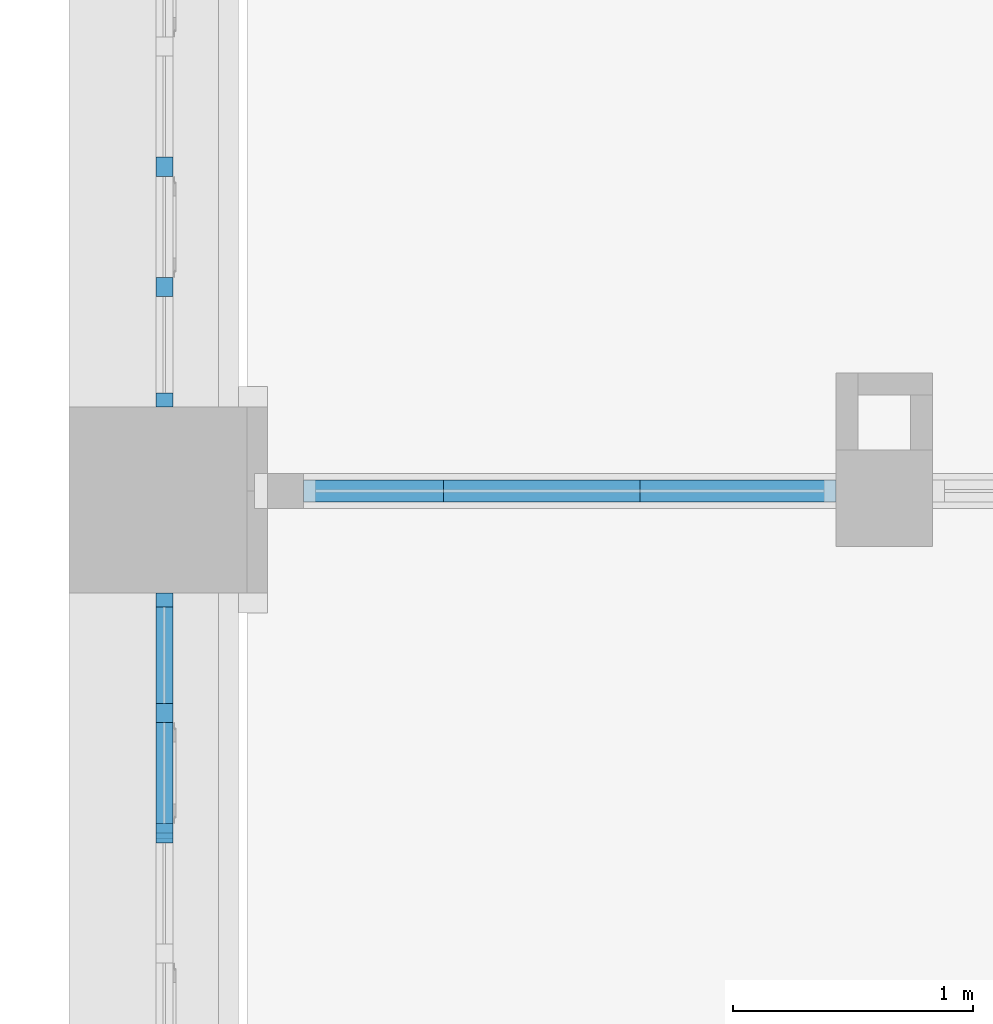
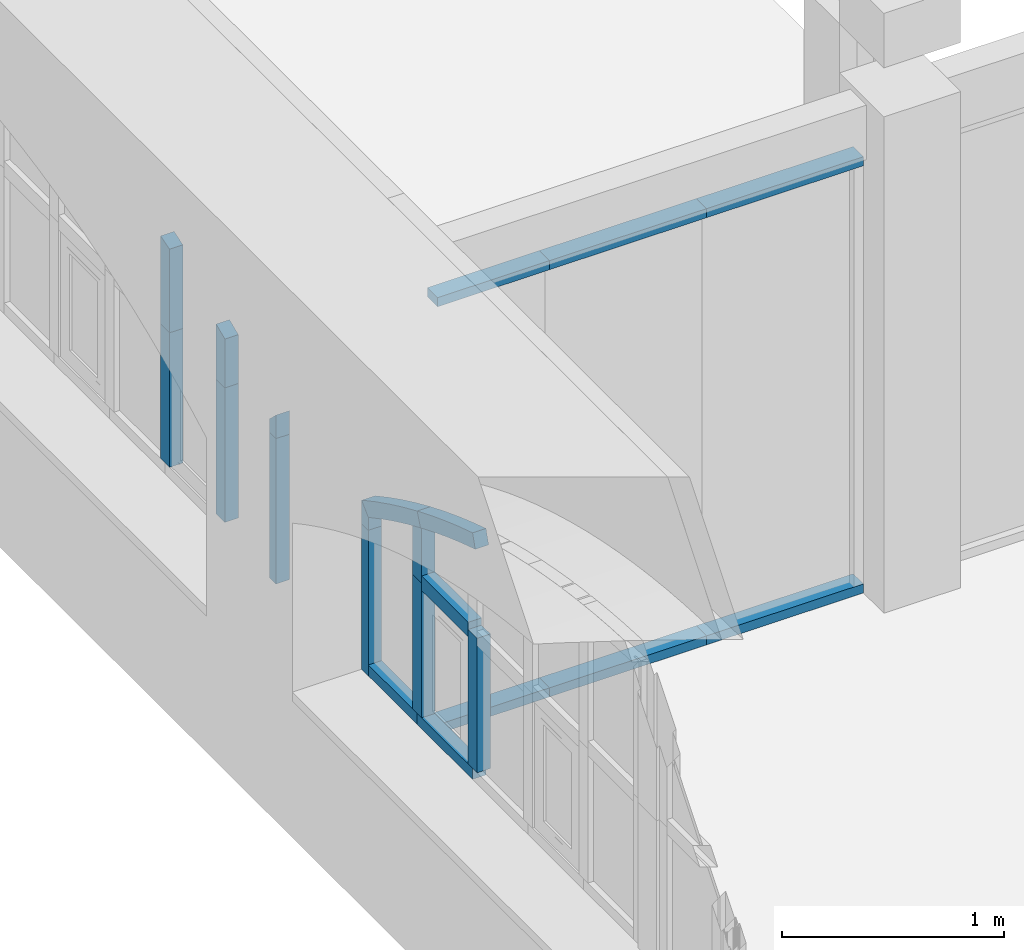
# One storey, part 6 of 32: 22 members, 3 elements without a shape of their own.
"""IFC2X3 building model written with IfcOpenShell, lengths in millimetres."""

from ifc_helpers import new_model, entity, si_unit, converted_unit, derived_unit, direction, frame, frame_2d, origin, place, context, subcontext, project, spatial, polyline, circle_curve, parameter, trimmed, segment, composite_curve, rectangle, outline, extrude, source, transform, mapped, material, type_object, type_shapes, element, aggregate, save


model = new_model("IFC2X3")

# Units and contexts
model_context = context("Model", 3, precision=0.01, world=origin(), true_north=direction((6.123031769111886e-17, 1.0)))
body_context = subcontext(model_context, "Body", "Model", "MODEL_VIEW")
ifc_project = project(units=[si_unit("LENGTHUNIT", "METRE", prefix="MILLI"), si_unit("AREAUNIT", "SQUARE_METRE"), si_unit("VOLUMEUNIT", "CUBIC_METRE"), converted_unit("PLANEANGLEUNIT", "DEGREE", entity("IfcPlaneAngleMeasure", 0.017453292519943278), si_unit("PLANEANGLEUNIT", "RADIAN"), dimensions=[0, 0, 0, 0, 0, 0, 0]), si_unit("MASSUNIT", "GRAM", prefix="KILO"), derived_unit("MASSDENSITYUNIT", [(si_unit("MASSUNIT", "GRAM", prefix="KILO"), 1), (si_unit("LENGTHUNIT", "METRE"), -3)]), derived_unit("IONCONCENTRATIONUNIT", [(si_unit("MASSUNIT", "GRAM", prefix="KILO"), 1), (si_unit("LENGTHUNIT", "METRE"), -3)]), derived_unit("MOMENTOFINERTIAUNIT", [(si_unit("LENGTHUNIT", "METRE"), 4)]), si_unit("TIMEUNIT", "SECOND"), si_unit("FREQUENCYUNIT", "HERTZ"), si_unit("THERMODYNAMICTEMPERATUREUNIT", "DEGREE_CELSIUS"), derived_unit("THERMALTRANSMITTANCEUNIT", [(si_unit("MASSUNIT", "GRAM", prefix="KILO"), 1), (si_unit("THERMODYNAMICTEMPERATUREUNIT", "KELVIN"), -1), (si_unit("TIMEUNIT", "SECOND"), -3)]), derived_unit("THERMALCONDUCTANCEUNIT", [(si_unit("MASSUNIT", "GRAM", prefix="KILO"), 1), (si_unit("THERMODYNAMICTEMPERATUREUNIT", "KELVIN"), -1), (si_unit("TIMEUNIT", "SECOND"), -3), (si_unit("LENGTHUNIT", "METRE"), 1)]), derived_unit("VOLUMETRICFLOWRATEUNIT", [(si_unit("LENGTHUNIT", "METRE", prefix="DECI"), 3), (si_unit("TIMEUNIT", "SECOND"), -1)]), derived_unit("MASSFLOWRATEUNIT", [(si_unit("MASSUNIT", "GRAM", prefix="KILO"), 1), (si_unit("TIMEUNIT", "SECOND"), -1)]), derived_unit("ROTATIONALFREQUENCYUNIT", [(si_unit("TIMEUNIT", "SECOND"), -1)]), si_unit("ELECTRICCURRENTUNIT", "AMPERE"), si_unit("ELECTRICVOLTAGEUNIT", "VOLT"), si_unit("POWERUNIT", "WATT"), si_unit("FORCEUNIT", "NEWTON", prefix="KILO"), si_unit("ILLUMINANCEUNIT", "LUX"), si_unit("LUMINOUSFLUXUNIT", "LUMEN"), si_unit("LUMINOUSINTENSITYUNIT", "CANDELA"), si_unit("ENERGYUNIT", "JOULE"), derived_unit("USERDEFINED", [(si_unit("MASSUNIT", "GRAM", prefix="KILO"), -1), (si_unit("LENGTHUNIT", "METRE"), -2), (si_unit("TIMEUNIT", "SECOND"), 3), (si_unit("LUMINOUSFLUXUNIT", "LUMEN"), 1)]), derived_unit("USERDEFINED", [(si_unit("MASSUNIT", "GRAM", prefix="KILO"), 1), (si_unit("TIMEUNIT", "SECOND"), -3), (si_unit("LENGTHUNIT", "METRE"), 3), (si_unit("ELECTRICCURRENTUNIT", "AMPERE"), -2)]), derived_unit("SOUNDPOWERUNIT", [(si_unit("MASSUNIT", "GRAM", prefix="KILO"), 1), (si_unit("TIMEUNIT", "SECOND"), -3), (si_unit("LENGTHUNIT", "METRE"), 2)]), derived_unit("SOUNDPRESSUREUNIT", [(si_unit("MASSUNIT", "GRAM", prefix="KILO"), 1), (si_unit("LENGTHUNIT", "METRE"), -1), (si_unit("TIMEUNIT", "SECOND"), -2)]), derived_unit("LINEARVELOCITYUNIT", [(si_unit("LENGTHUNIT", "METRE"), 1), (si_unit("TIMEUNIT", "SECOND"), -1)]), si_unit("PRESSUREUNIT", "PASCAL"), derived_unit("USERDEFINED", [(si_unit("MASSUNIT", "GRAM", prefix="KILO"), 1), (si_unit("LENGTHUNIT", "METRE"), -2), (si_unit("TIMEUNIT", "SECOND"), -2)]), derived_unit("LINEARFORCEUNIT", [(si_unit("MASSUNIT", "GRAM", prefix="KILO"), 1), (si_unit("TIMEUNIT", "SECOND"), -2)]), derived_unit("PLANARFORCEUNIT", [(si_unit("MASSUNIT", "GRAM", prefix="KILO"), 1), (si_unit("LENGTHUNIT", "METRE"), -1), (si_unit("TIMEUNIT", "SECOND"), -2)]), derived_unit("SPECIFICHEATCAPACITYUNIT", [(si_unit("THERMODYNAMICTEMPERATUREUNIT", "KELVIN"), -1), (si_unit("LENGTHUNIT", "METRE"), 2), (si_unit("TIMEUNIT", "SECOND"), -2)]), derived_unit("HEATFLUXDENSITYUNIT", [(si_unit("MASSUNIT", "GRAM", prefix="KILO"), 1), (si_unit("TIMEUNIT", "SECOND"), -3)]), derived_unit("HEATINGVALUEUNIT", [(si_unit("LENGTHUNIT", "METRE"), 2), (si_unit("TIMEUNIT", "SECOND"), -2)]), derived_unit("VAPORPERMEABILITYUNIT", [(si_unit("LENGTHUNIT", "METRE"), -1), (si_unit("TIMEUNIT", "SECOND"), 1)]), derived_unit("DYNAMICVISCOSITYUNIT", [(si_unit("MASSUNIT", "GRAM", prefix="KILO"), 1), (si_unit("TIMEUNIT", "SECOND"), -1), (si_unit("LENGTHUNIT", "METRE"), -1)]), derived_unit("THERMALEXPANSIONCOEFFICIENTUNIT", [(si_unit("THERMODYNAMICTEMPERATUREUNIT", "KELVIN"), -1)]), derived_unit("MODULUSOFELASTICITYUNIT", [(si_unit("MASSUNIT", "GRAM", prefix="KILO"), 1), (si_unit("LENGTHUNIT", "METRE"), -1), (si_unit("TIMEUNIT", "SECOND"), -2)]), derived_unit("ISOTHERMALMOISTURECAPACITYUNIT", [(si_unit("MASSUNIT", "GRAM", prefix="KILO"), -1), (si_unit("LENGTHUNIT", "METRE"), 3)]), derived_unit("MOISTUREDIFFUSIVITYUNIT", [(si_unit("TIMEUNIT", "SECOND"), -1), (si_unit("LENGTHUNIT", "METRE"), 2)]), derived_unit("MASSPERLENGTHUNIT", [(si_unit("MASSUNIT", "GRAM", prefix="KILO"), 1), (si_unit("LENGTHUNIT", "METRE"), -1)]), derived_unit("THERMALRESISTANCEUNIT", [(si_unit("MASSUNIT", "GRAM", prefix="KILO"), -1), (si_unit("TIMEUNIT", "SECOND"), 3), (si_unit("THERMODYNAMICTEMPERATUREUNIT", "KELVIN"), 1)]), derived_unit("ACCELERATIONUNIT", [(si_unit("LENGTHUNIT", "METRE"), 1), (si_unit("TIMEUNIT", "SECOND"), -2)]), derived_unit("ANGULARVELOCITYUNIT", [(si_unit("TIMEUNIT", "SECOND"), -1), (si_unit("PLANEANGLEUNIT", "RADIAN"), 1)]), derived_unit("LINEARSTIFFNESSUNIT", [(si_unit("MASSUNIT", "GRAM", prefix="KILO"), 1), (si_unit("TIMEUNIT", "SECOND"), -2)]), derived_unit("WARPINGCONSTANTUNIT", [(si_unit("LENGTHUNIT", "METRE"), 6)]), derived_unit("LINEARMOMENTUNIT", [(si_unit("MASSUNIT", "GRAM", prefix="KILO"), 1), (si_unit("LENGTHUNIT", "METRE"), 1), (si_unit("TIMEUNIT", "SECOND"), -2)]), derived_unit("TORQUEUNIT", [(si_unit("MASSUNIT", "GRAM", prefix="KILO"), 1), (si_unit("LENGTHUNIT", "METRE"), 2), (si_unit("TIMEUNIT", "SECOND"), -2)])], contexts=[model_context])

# Site, building, storey
site_placement = place(None, origin())
site = spatial("IfcSite", under=ifc_project, at=site_placement, Name="Default", CompositionType="ELEMENT")
building_placement = place(site_placement, origin())
building = spatial("IfcBuilding", under=site, at=building_placement, Name="Eesti Rahvusraamatukogu hoone renoveerimise projekteerimistööd", CompositionType="ELEMENT")
storey_placement = place(building_placement, frame((0.0, 0.0, 4950.000000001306)))
storey = spatial("IfcBuildingStorey", under=building, at=storey_placement, Name="2. korrus", CompositionType="ELEMENT", Elevation=4950.000000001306)

# Curtain wall, members
curtain_wall_type_1 = type_object("IfcCurtainWallType", Name="Curtain Wall:VLS Klaasvahesein profiilita 38db", PredefinedType="NOTDEFINED")
curtain_wall_1_placement = place(storey_placement, frame((0.0, 0.0, -4950.000000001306)))
curtain_wall_1 = element("IfcCurtainWall", 1, at=curtain_wall_1_placement, inside=storey, type_object=curtain_wall_type_1, Name="Curtain Wall:VLS Klaasvahesein profiilita 38db", ObjectType="Curtain Wall:VLS Klaasvahesein profiilita 38db")
ifc_material_1 = material(Name="Aluminum")
member_type_1 = type_object("IfcMemberType", Name="Rectangular Mullion:50mm x 92mm", PredefinedType="MULLION", material=ifc_material_1)
shared_shape_1 = source(origin(), body_context, "Body", "SweptSolid", [
    extrude(rectangle(XDim=50.0, YDim=92.0, at=frame_2d((0.0, 3.552713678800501e-15), x_axis=(1.0, 0.0))), frame((-25.0, 0.0, -816.6666667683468), z_axis=(0.0, 0.0, 1.0), x_axis=(-1.0, 0.0, 0.0)), (0.0, 0.0, 1.0), 816.6666667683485),
])
type_shapes(member_type_1, [shared_shape_1])
member_1_placement = place(curtain_wall_1_placement, frame((-33590.0, 12420.0, 7350.0), z_axis=(1.0, 0.0, 0.0), x_axis=(0.0, 0.0, 1.0)))
member_1 = element("IfcMember", 2, at=member_1_placement, type_object=member_type_1, material=ifc_material_1, Name="Rectangular Mullion:50mm x 92mm", ObjectType="Rectangular Mullion:50mm x 92mm", context=body_context, shape_type="MappedRepresentation", body=[
    mapped(shared_shape_1, transform((0.0, 0.0, 0.0), scale=1.0)),
])
member_type_2 = type_object("IfcMemberType", Name="Rectangular Mullion:50mm x 92mm", PredefinedType="MULLION", material=ifc_material_1)
shared_shape_2 = source(origin(), body_context, "Body", "SweptSolid", [
    extrude(rectangle(XDim=50.0, YDim=92.0, at=frame_2d((0.0, 3.552713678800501e-15), x_axis=(1.0, 0.0))), frame((-25.0, 0.0, -582.1666667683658), z_axis=(0.0, 0.0, 1.0), x_axis=(-1.0, 0.0, 0.0)), (0.0, 0.0, 1.0), 582.1666667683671),
])
type_shapes(member_type_2, [shared_shape_2])
member_2_placement = place(curtain_wall_1_placement, frame((-35223.33333323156, 12420.0, 7350.0), z_axis=(1.0, 0.0, 0.0), x_axis=(0.0, 0.0, 1.0)))
member_2 = element("IfcMember", 3, at=member_2_placement, type_object=member_type_2, material=ifc_material_1, Name="Rectangular Mullion:50mm x 92mm", ObjectType="Rectangular Mullion:50mm x 92mm", context=body_context, shape_type="MappedRepresentation", body=[
    mapped(shared_shape_2, transform((0.0, 0.0, 0.0), scale=1.0)),
])
member_type_3 = type_object("IfcMemberType", Name="Rectangular Mullion:50mm x 92mm", PredefinedType="MULLION", material=ifc_material_1)
shared_shape_3 = source(origin(), body_context, "Body", "SweptSolid", [
    extrude(rectangle(XDim=50.0, YDim=92.0, at=frame_2d((0.0, 3.552713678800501e-15), x_axis=(1.0, 0.0))), frame((-25.0, 0.0, -816.666666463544), z_axis=(0.0, 0.0, 1.0), x_axis=(-1.0, 0.0, 0.0)), (0.0, 0.0, 1.0), 816.666666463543),
])
type_shapes(member_type_3, [shared_shape_3])
member_3_placement = place(curtain_wall_1_placement, frame((-34406.666666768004, 12420.0, 7350.0), z_axis=(1.0, 0.0, 0.0), x_axis=(0.0, 0.0, 1.0)))
member_3 = element("IfcMember", 4, at=member_3_placement, type_object=member_type_3, material=ifc_material_1, Name="Rectangular Mullion:50mm x 92mm", ObjectType="Rectangular Mullion:50mm x 92mm", context=body_context, shape_type="MappedRepresentation", body=[
    mapped(shared_shape_3, transform((0.0, 0.0, 0.0), scale=1.0)),
])
member_type_4 = type_object("IfcMemberType", Name="Rectangular Mullion:50mm x 92mm", PredefinedType="MULLION", material=ifc_material_1)
shared_shape_4 = source(origin(), body_context, "Body", "SweptSolid", [
    extrude(rectangle(XDim=50.0, YDim=92.0, at=frame_2d((0.0, 3.552713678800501e-15), x_axis=(1.0, 0.0))), frame((-25.0, 0.0, -582.1666667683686), z_axis=(0.0, 0.0, 1.0), x_axis=(-1.0, 0.0, 0.0)), (0.0, 0.0, 1.0), 582.1666667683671),
])
type_shapes(member_type_4, [shared_shape_4])
member_4_placement = place(curtain_wall_1_placement, frame((-35805.49999999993, 12420.0, 4950.0), z_axis=(-1.0, 0.0, 0.0), x_axis=(0.0, 0.0, -1.0)))
member_4 = element("IfcMember", 5, at=member_4_placement, type_object=member_type_4, material=ifc_material_1, Name="Rectangular Mullion:50mm x 92mm", ObjectType="Rectangular Mullion:50mm x 92mm", context=body_context, shape_type="MappedRepresentation", body=[
    mapped(shared_shape_4, transform((0.0, 0.0, 0.0), scale=1.0)),
])
member_type_5 = type_object("IfcMemberType", Name="Rectangular Mullion:50mm x 92mm", PredefinedType="MULLION", material=ifc_material_1)
shared_shape_5 = source(origin(), body_context, "Body", "SweptSolid", [
    extrude(rectangle(XDim=50.0, YDim=92.0, at=frame_2d((0.0, 3.552713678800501e-15), x_axis=(1.0, 0.0))), frame((-25.0, 0.0, -816.6666664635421), z_axis=(0.0, 0.0, 1.0), x_axis=(-1.0, 0.0, 0.0)), (0.0, 0.0, 1.0), 816.666666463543),
])
type_shapes(member_type_5, [shared_shape_5])
member_5_placement = place(curtain_wall_1_placement, frame((-35223.33333323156, 12420.0, 4950.0), z_axis=(-1.0, 0.0, 0.0), x_axis=(0.0, 0.0, -1.0)))
member_5 = element("IfcMember", 6, at=member_5_placement, type_object=member_type_5, material=ifc_material_1, Name="Rectangular Mullion:50mm x 92mm", ObjectType="Rectangular Mullion:50mm x 92mm", context=body_context, shape_type="MappedRepresentation", body=[
    mapped(shared_shape_5, transform((0.0, 0.0, 0.0), scale=1.0)),
])
member_type_6 = type_object("IfcMemberType", Name="Rectangular Mullion:50mm x 92mm", PredefinedType="MULLION", material=ifc_material_1)
shared_shape_6 = source(origin(), body_context, "Body", "SweptSolid", [
    extrude(rectangle(XDim=50.0, YDim=92.0, at=frame_2d((0.0, 3.552713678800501e-15), x_axis=(1.0, 0.0))), frame((-25.0, 0.0, -816.6666667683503), z_axis=(0.0, 0.0, 1.0), x_axis=(-1.0, 0.0, 0.0)), (0.0, 0.0, 1.0), 816.6666667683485),
])
type_shapes(member_type_6, [shared_shape_6])
member_6_placement = place(curtain_wall_1_placement, frame((-34406.666666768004, 12420.0, 4950.0), z_axis=(-1.0, 0.0, 0.0), x_axis=(0.0, 0.0, -1.0)))
member_6 = element("IfcMember", 7, at=member_6_placement, type_object=member_type_6, material=ifc_material_1, Name="Rectangular Mullion:50mm x 92mm", ObjectType="Rectangular Mullion:50mm x 92mm", context=body_context, shape_type="MappedRepresentation", body=[
    mapped(shared_shape_6, transform((0.0, 0.0, 0.0), scale=1.0)),
])
aggregate(curtain_wall_1, [member_1, member_2, member_3, member_4, member_5, member_6])

curtain_wall_type_2 = type_object("IfcCurtainWallType", Name="Curtain Wall:Ak-04", PredefinedType="NOTDEFINED")
curtain_wall_2_placement = place(storey_placement, frame((0.0, 0.0, -4950.000000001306)))
curtain_wall_2 = element("IfcCurtainWall", 8, at=curtain_wall_2_placement, inside=storey, type_object=curtain_wall_type_2, Name="Curtain Wall:Ak-04", ObjectType="Curtain Wall:Ak-04")
ifc_material_2 = material(Name="LUMION_dark steel window frames")
member_type_7 = type_object("IfcMemberType", Name="Rectangular Mullion:NEW 80x70mm", PredefinedType="MULLION", material=ifc_material_2)
shared_shape_7 = source(origin(), body_context, "Body", "SweptSolid", [
    extrude(rectangle(XDim=80.0, YDim=70.0, at=frame_2d((0.0, -3.552713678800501e-15), x_axis=(1.0, 0.0))), frame((0.0, 0.0, -420.0), z_axis=(0.0, 0.0, 1.0), x_axis=(-1.0, 0.0, 0.0)), (0.0, 0.0, 1.0), 419.999999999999),
])
type_shapes(member_type_7, [shared_shape_7])
member_7_placement = place(curtain_wall_2_placement, frame((-36383.999999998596, 11036.599999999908, 6550.000000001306), z_axis=(0.0, -1.0, 0.0), x_axis=(0.0, 0.0, 1.0)))
member_7 = element("IfcMember", 9, at=member_7_placement, type_object=member_type_7, material=ifc_material_2, Name="Rectangular Mullion:NEW 80x70mm", ObjectType="Rectangular Mullion:NEW 80x70mm", context=body_context, shape_type="MappedRepresentation", body=[
    mapped(shared_shape_7, transform((0.0, 0.0, 0.0), scale=1.0)),
])
member_type_8 = type_object("IfcMemberType", Name="Rectangular Mullion:NEW 60x70mm", PredefinedType="MULLION", material=ifc_material_2)
shared_shape_8 = source(origin(), body_context, "Body", "SweptSolid", [
    extrude(rectangle(XDim=60.0, YDim=70.0, at=frame_2d((0.0, 3.552713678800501e-15), x_axis=(1.0, 0.0))), frame((-30.0, 0.0, -500.0), z_axis=(0.0, 0.0, 1.0), x_axis=(-1.0, 0.0, 0.0)), (0.0, 0.0, 1.0), 499.999999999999),
])
type_shapes(member_type_8, [shared_shape_8])
member_8_placement = place(curtain_wall_2_placement, frame((-36383.999999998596, 11496.599999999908, 5750.000000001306), z_axis=(0.0, 1.0, 0.0), x_axis=(0.0, 0.0, -1.0)))
member_8 = element("IfcMember", 10, at=member_8_placement, type_object=member_type_8, material=ifc_material_2, Name="Rectangular Mullion:NEW 60x70mm", ObjectType="Rectangular Mullion:NEW 60x70mm", context=body_context, shape_type="MappedRepresentation", body=[
    mapped(shared_shape_8, transform((0.0, 0.0, 0.0), scale=1.0)),
])
member_type_9 = type_object("IfcMemberType", Name="Rectangular Mullion:NEW 60x70mm", PredefinedType="MULLION", material=ifc_material_2)
shared_shape_9 = source(origin(), body_context, "Body", "SweptSolid", [
    extrude(rectangle(XDim=60.0, YDim=70.0, at=frame_2d((0.0, 3.552713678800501e-15), x_axis=(1.0, 0.0))), frame((-30.0, 0.0, -440.0), z_axis=(0.0, 0.0, 1.0), x_axis=(-1.0, 0.0, 0.0)), (0.0, 0.0, 1.0), 439.9999999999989),
])
type_shapes(member_type_9, [shared_shape_9])
member_9_placement = place(curtain_wall_2_placement, frame((-36383.999999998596, 11936.599999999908, 5750.000000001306), z_axis=(0.0, 1.0, 0.0), x_axis=(0.0, 0.0, -1.0)))
member_9 = element("IfcMember", 11, at=member_9_placement, type_object=member_type_9, material=ifc_material_2, Name="Rectangular Mullion:NEW 60x70mm", ObjectType="Rectangular Mullion:NEW 60x70mm", context=body_context, shape_type="MappedRepresentation", body=[
    mapped(shared_shape_9, transform((0.0, 0.0, 0.0), scale=1.0)),
])

curtain_wall_3_placement = place(storey_placement, frame((0.0, 0.0, -4950.000000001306)))
curtain_wall_3 = element("IfcCurtainWall", 12, at=curtain_wall_3_placement, inside=storey, type_object=curtain_wall_type_2, Name="Curtain Wall:Ak-04", ObjectType="Curtain Wall:Ak-04")
member_type_10 = type_object("IfcMemberType", Name="Rectangular Mullion:NEW 80x70mm", PredefinedType="MULLION", material=ifc_material_2)
shared_shape_10 = source(origin(), body_context, "Body", "SweptSolid", [
    extrude(outline(composite_curve([segment(polyline([(-174.30772999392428, -46.24561306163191), (94.42385048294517, -46.24561306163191)]), True, "CONTINUOUS"), segment(trimmed(circle_curve(frame_2d((-4754.083849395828, 2093.7543869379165), x_axis=(0.8754595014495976, -0.48329148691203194)), 5299.776119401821), [parameter(5.085231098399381)], [parameter(5.924265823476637)], True, "PARAMETER"), True, "CONTINUOUS"), segment(trimmed(circle_curve(frame_2d((-4754.0838493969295, 2093.7543869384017), x_axis=(0.9206661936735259, -0.3903508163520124)), 5299.776119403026), [parameter(0.0)], [parameter(0.10296582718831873)], True, "PARAMETER"), True, "CONTINUOUS"), segment(polyline([(128.9507517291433, 33.75438693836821), (-174.30772999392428, 33.75438693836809)]), True, "CONTINUOUS"), segment(polyline([(-174.30772999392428, 33.75438693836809), (-174.30772999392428, -46.24561306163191)]), True, "CONTINUOUS")], self_intersect=False)), frame((-6.245613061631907, -35.0, -174.30772999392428), z_axis=(0.0, 1.0, 0.0), x_axis=(0.0, 0.0, -1.0)), (0.0, 0.0, 1.0), 70.00000000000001),
])
type_shapes(member_type_10, [shared_shape_10])
member_10_placement = place(curtain_wall_3_placement, frame((-36383.9999999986, 13268.695591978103, 6550.000000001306), z_axis=(0.0, 0.0, -1.0), x_axis=(0.0, -1.0, 0.0)))
member_10 = element("IfcMember", 13, at=member_10_placement, type_object=member_type_10, material=ifc_material_2, Name="Rectangular Mullion:NEW 80x70mm", ObjectType="Rectangular Mullion:NEW 80x70mm", context=body_context, shape_type="MappedRepresentation", body=[
    mapped(shared_shape_10, transform((0.0, 0.0, 0.0), scale=1.0)),
])
member_type_11 = type_object("IfcMemberType", Name="Rectangular Mullion:NEW 80x70mm", PredefinedType="MULLION", material=ifc_material_2)
shared_shape_11 = source(origin(), body_context, "Body", "SweptSolid", [
    extrude(rectangle(XDim=80.0, YDim=70.0, at=frame_2d((0.0, -3.552713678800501e-15), x_axis=(1.0, 0.0))), frame((0.0, 0.0, -740.0), z_axis=(0.0, 0.0, 1.0), x_axis=(-1.0, 0.0, 0.0)), (0.0, 0.0, 1.0), 740.0),
])
type_shapes(member_type_11, [shared_shape_11])
member_11_placement = place(curtain_wall_3_placement, frame((-36383.9999999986, 13268.695591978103, 5810.000000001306), z_axis=(0.0, 0.0, -1.0), x_axis=(0.0, -1.0, 0.0)))
member_11 = element("IfcMember", 14, at=member_11_placement, type_object=member_type_11, material=ifc_material_2, Name="Rectangular Mullion:NEW 80x70mm", ObjectType="Rectangular Mullion:NEW 80x70mm", context=body_context, shape_type="MappedRepresentation", body=[
    mapped(shared_shape_11, transform((0.0, 0.0, 0.0), scale=1.0)),
])
member_12_placement = place(curtain_wall_3_placement, frame((-36383.9999999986, 13768.695591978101, 5810.000000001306), z_axis=(0.0, 0.0, -1.0), x_axis=(0.0, -1.0, 0.0)))
member_12 = element("IfcMember", 15, at=member_12_placement, type_object=member_type_11, material=ifc_material_2, Name="Rectangular Mullion:NEW 80x70mm", ObjectType="Rectangular Mullion:NEW 80x70mm", context=body_context, shape_type="MappedRepresentation", body=[
    mapped(shared_shape_11, transform((0.0, 0.0, 0.0), scale=1.0)),
])

# Member
member_13_placement = place(curtain_wall_2_placement, frame((-36383.999999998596, 10996.599999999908, 5810.000000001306), z_axis=(0.0, 0.0, -1.0), x_axis=(0.0, -1.0, 0.0)))
member_13 = element("IfcMember", 16, at=member_13_placement, type_object=member_type_11, material=ifc_material_2, Name="Rectangular Mullion:NEW 80x70mm", ObjectType="Rectangular Mullion:NEW 80x70mm", context=body_context, shape_type="MappedRepresentation", body=[
    mapped(shared_shape_11, transform((0.0, 0.0, 0.0), scale=1.0)),
])

member_14_placement = place(curtain_wall_2_placement, frame((-36383.999999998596, 11496.599999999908, 5810.000000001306), z_axis=(0.0, 0.0, -1.0), x_axis=(0.0, -1.0, 0.0)))
member_14 = element("IfcMember", 17, at=member_14_placement, type_object=member_type_11, material=ifc_material_2, Name="Rectangular Mullion:NEW 80x70mm", ObjectType="Rectangular Mullion:NEW 80x70mm", context=body_context, shape_type="MappedRepresentation", body=[
    mapped(shared_shape_11, transform((0.0, 0.0, 0.0), scale=1.0)),
])

member_type_12 = type_object("IfcMemberType", Name="Rectangular Mullion:NEW 80x70mm", PredefinedType="MULLION", material=ifc_material_2)
shared_shape_12 = source(origin(), body_context, "Body", "SweptSolid", [
    extrude(outline(composite_curve([segment(polyline([(-285.0515721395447, -44.75856233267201), (174.81782335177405, -44.75856233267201)]), True, "CONTINUOUS"), segment(trimmed(circle_curve(frame_2d((-4864.82769154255, 1595.2414376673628), x_axis=(0.9206661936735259, -0.3903508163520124)), 5299.776119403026), [parameter(4.950420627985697)], [parameter(5.674213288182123)], True, "PARAMETER"), True, "CONTINUOUS"), segment(trimmed(circle_curve(frame_2d((-4864.827691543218, 1595.2414376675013), x_axis=(0.9547498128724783, -0.297410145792)), 5299.776119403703), [parameter(0.0)], [parameter(0.18342876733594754)], True, "PARAMETER"), True, "CONTINUOUS"), segment(polyline([(200.15275420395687, 35.24143766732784), (-285.0515721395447, 35.24143766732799)]), True, "CONTINUOUS"), segment(polyline([(-285.0515721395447, 35.24143766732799), (-285.0515721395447, -44.75856233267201)]), True, "CONTINUOUS")], self_intersect=False)), frame((-4.758562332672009, -35.0, -285.0515721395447), z_axis=(0.0, 1.0, 0.0), x_axis=(0.0, 0.0, -1.0)), (0.0, 0.0, 1.0), 70.00000000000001),
])
type_shapes(member_type_12, [shared_shape_12])
member_15_placement = place(curtain_wall_3_placement, frame((-36383.9999999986, 13768.695591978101, 6550.000000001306), z_axis=(0.0, 0.0, -1.0), x_axis=(0.0, -1.0, 0.0)))
member_15 = element("IfcMember", 18, at=member_15_placement, type_object=member_type_12, material=ifc_material_2, Name="Rectangular Mullion:NEW 80x70mm", ObjectType="Rectangular Mullion:NEW 80x70mm", context=body_context, shape_type="MappedRepresentation", body=[
    mapped(shared_shape_12, transform((0.0, 0.0, 0.0), scale=1.0)),
])

member_type_13 = type_object("IfcMemberType", Name="Rectangular Mullion:NEW 80x70mm", PredefinedType="MULLION", material=ifc_material_2)
shared_shape_13 = source(origin(), body_context, "Body", "SweptSolid", [
    extrude(outline(composite_curve([segment(polyline([(-174.3077299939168, -33.75438693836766), (128.95075172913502, -33.75438693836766)]), True, "CONTINUOUS"), segment(trimmed(circle_curve(frame_2d((-4754.083849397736, -2093.7543869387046), x_axis=(0.9547498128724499, 0.2974101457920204)), 5299.776119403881), [parameter(5.5712474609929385)], [parameter(5.674213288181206)], True, "PARAMETER"), True, "CONTINUOUS"), segment(trimmed(circle_curve(frame_2d((-4754.083849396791, -2093.7543869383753), x_axis=(0.9206661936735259, 0.39035081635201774)), 5299.7761194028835), [parameter(0.0)], [parameter(0.8390347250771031)], True, "PARAMETER"), True, "CONTINUOUS"), segment(polyline([(94.42385048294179, 46.245613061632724), (-174.3077299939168, 46.24561306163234)]), True, "CONTINUOUS"), segment(polyline([(-174.3077299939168, 46.24561306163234), (-174.3077299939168, -33.75438693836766)]), True, "CONTINUOUS")], self_intersect=False)), frame((6.245613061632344, -35.0, -174.3077299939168), z_axis=(0.0, 1.0, 0.0), x_axis=(0.0, 0.0, -1.0)), (0.0, 0.0, 1.0), 70.00000000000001),
])
type_shapes(member_type_13, [shared_shape_13])
member_16_placement = place(curtain_wall_2_placement, frame((-36383.999999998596, 11496.599999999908, 6550.000000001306), z_axis=(0.0, 0.0, -1.0), x_axis=(0.0, -1.0, 0.0)))
member_16 = element("IfcMember", 19, at=member_16_placement, type_object=member_type_13, material=ifc_material_2, Name="Rectangular Mullion:NEW 80x70mm", ObjectType="Rectangular Mullion:NEW 80x70mm", context=body_context, shape_type="MappedRepresentation", body=[
    mapped(shared_shape_13, transform((0.0, 0.0, 0.0), scale=1.0)),
])

member_type_14 = type_object("IfcMemberType", Name="Rectangular Mullion:NEW 60x70mm", PredefinedType="MULLION", material=ifc_material_2)
shared_shape_14 = source(origin(), body_context, "Body", "SweptSolid", [
    extrude(outline(polyline([(-50.43550252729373, -30.0), (79.56449747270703, -30.0), (21.306507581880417, 30.0), (-50.43550252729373, 30.0), (-50.43550252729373, -30.0)])), frame((-30.0, -35.0, -50.43550252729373), z_axis=(0.0, 1.0, 0.0), x_axis=(0.0, 0.0, -1.0)), (0.0, 0.0, 1.0), 70.00000000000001),
])
type_shapes(member_type_14, [shared_shape_14])
member_17_placement = place(curtain_wall_3_placement, frame((-36383.9999999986, 12768.695591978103, 6550.000000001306), z_axis=(0.0, 0.0, -1.0), x_axis=(0.0, -1.0, 0.0)))
member_17 = element("IfcMember", 20, at=member_17_placement, type_object=member_type_14, material=ifc_material_2, Name="Rectangular Mullion:NEW 60x70mm", ObjectType="Rectangular Mullion:NEW 60x70mm", context=body_context, shape_type="MappedRepresentation", body=[
    mapped(shared_shape_14, transform((0.0, 0.0, 0.0), scale=1.0)),
])

member_type_15 = type_object("IfcMemberType", Name="Rectangular Mullion:NEW 60x70mm", PredefinedType="MULLION", material=ifc_material_2)
shared_shape_15 = source(origin(), body_context, "Body", "SweptSolid", [
    extrude(rectangle(XDim=60.0, YDim=70.0, at=frame_2d((0.0, -3.552713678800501e-15), x_axis=(1.0, 0.0))), frame((-30.0, 0.0, -800.0), z_axis=(0.0, 0.0, 1.0), x_axis=(-1.0, 0.0, 0.0)), (0.0, 0.0, 1.0), 800.0),
])
type_shapes(member_type_15, [shared_shape_15])
member_18_placement = place(curtain_wall_3_placement, frame((-36383.9999999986, 12768.695591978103, 5750.000000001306), z_axis=(0.0, 0.0, -1.0), x_axis=(0.0, -1.0, 0.0)))
member_18 = element("IfcMember", 21, at=member_18_placement, type_object=member_type_15, material=ifc_material_2, Name="Rectangular Mullion:NEW 60x70mm", ObjectType="Rectangular Mullion:NEW 60x70mm", context=body_context, shape_type="MappedRepresentation", body=[
    mapped(shared_shape_15, transform((0.0, 0.0, 0.0), scale=1.0)),
])

aggregate(curtain_wall_3, [member_10, member_11, member_15, member_12, member_17, member_18])

member_type_16 = type_object("IfcMemberType", Name="Rectangular Mullion:NEW 60x70mm", PredefinedType="MULLION", material=ifc_material_2)
shared_shape_16 = source(origin(), body_context, "Body", "SweptSolid", [
    extrude(rectangle(XDim=60.0, YDim=70.0, at=frame_2d((0.0, -3.552713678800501e-15), x_axis=(1.0, 0.0))), frame((-30.0, 0.0, -800.0), z_axis=(0.0, 0.0, 1.0), x_axis=(-1.0, 0.0, 0.0)), (0.0, 0.0, 1.0), 800.0),
])
type_shapes(member_type_16, [shared_shape_16])
member_19_placement = place(curtain_wall_2_placement, frame((-36383.999999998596, 11996.599999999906, 6550.000000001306), z_axis=(0.0, 0.0, 1.0), x_axis=(0.0, 1.0, 0.0)))
member_19 = element("IfcMember", 22, at=member_19_placement, type_object=member_type_16, material=ifc_material_2, Name="Rectangular Mullion:NEW 60x70mm", ObjectType="Rectangular Mullion:NEW 60x70mm", context=body_context, shape_type="MappedRepresentation", body=[
    mapped(shared_shape_16, transform((0.0, 0.0, 0.0), scale=1.0)),
])

member_type_17 = type_object("IfcMemberType", Name="Rectangular Mullion:NEW 60x70mm", PredefinedType="MULLION", material=ifc_material_2)
shared_shape_17 = source(origin(), body_context, "Body", "SweptSolid", [
    extrude(outline(polyline([(-79.56449747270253, -30.0), (50.43550252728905, -30.0), (50.43550252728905, 30.0), (-21.306507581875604, 30.0), (-79.56449747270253, -30.0)])), frame((-30.0, -35.0, -79.56449747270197), z_axis=(0.0, 1.0, 0.0), x_axis=(0.0, 0.0, -1.0)), (0.0, 0.0, 1.0), 70.00000000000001),
])
type_shapes(member_type_17, [shared_shape_17])
member_20_placement = place(curtain_wall_2_placement, frame((-36383.999999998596, 11996.599999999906, 6680.000000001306), z_axis=(0.0, 0.0, 1.0), x_axis=(0.0, 1.0, 0.0)))
member_20 = element("IfcMember", 23, at=member_20_placement, type_object=member_type_17, material=ifc_material_2, Name="Rectangular Mullion:NEW 60x70mm", ObjectType="Rectangular Mullion:NEW 60x70mm", context=body_context, shape_type="MappedRepresentation", body=[
    mapped(shared_shape_17, transform((0.0, 0.0, 0.0), scale=1.0)),
])

member_type_18 = type_object("IfcMemberType", Name="Rectangular Mullion:NEW 80x70mm", PredefinedType="MULLION", material=ifc_material_2)
shared_shape_18 = source(origin(), body_context, "Body", "SweptSolid", [
    extrude(outline(composite_curve([segment(polyline([(-53.08199940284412, -263.97691053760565), (26.91800059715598, -263.97691053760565)]), True, "CONTINUOUS"), segment(trimmed(circle_curve(frame_2d((5326.694120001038, -263.97691053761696), x_axis=(-0.9951001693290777, 0.09887190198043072)), 5299.776119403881), [parameter(3.5622212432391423e-13)], [parameter(5.674213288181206)], True, "PARAMETER"), False, "CONTINUOUS"), segment(polyline([(52.886006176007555, 260.02203445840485), (-26.722007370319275, 267.9317866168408)]), True, "CONTINUOUS"), segment(trimmed(circle_curve(frame_2d((5326.694120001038, -263.97691053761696), x_axis=(-0.9951001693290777, 0.09887190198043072)), 5379.776119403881), [parameter(3.5622212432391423e-13)], [parameter(5.674213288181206)], True, "PARAMETER"), True, "CONTINUOUS")], self_intersect=False)), frame((-53.081999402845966, -35.0, -263.9769105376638), z_axis=(0.0, 1.0, 0.0), x_axis=(-0.9951001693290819, 0.0, 0.09887190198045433)), (0.0, 0.0, 1.0), 70.00000000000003),
])
type_shapes(member_type_18, [shared_shape_18])
member_21_placement = place(curtain_wall_2_placement, frame((-36383.999999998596, 10996.59999999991, 7106.564123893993), z_axis=(0.0, -0.9547498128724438, 0.2974101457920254), x_axis=(0.0, 0.2974101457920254, 0.9547498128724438)))
member_21 = element("IfcMember", 24, at=member_21_placement, type_object=member_type_18, material=ifc_material_2, Name="Rectangular Mullion:NEW 80x70mm", ObjectType="Rectangular Mullion:NEW 80x70mm", context=body_context, shape_type="MappedRepresentation", body=[
    mapped(shared_shape_18, transform((0.0, 0.0, 0.0), scale=1.0)),
])

member_type_19 = type_object("IfcMemberType", Name="Rectangular Mullion:NEW 80x70mm", PredefinedType="MULLION", material=ifc_material_2)
shared_shape_19 = source(origin(), body_context, "Body", "SweptSolid", [
    extrude(outline(composite_curve([segment(trimmed(circle_curve(frame_2d((5012.255803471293, 1821.4299836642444), x_axis=(-0.9214052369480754, -0.3886031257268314)), 5379.776119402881), [parameter(354.0757341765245)], [parameter(359.99999999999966)], True, "PARAMETER"), True, "CONTINUOUS"), segment(polyline([(55.30191344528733, -269.16783204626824), (129.01433240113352, -238.07958198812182)]), True, "CONTINUOUS"), segment(trimmed(circle_curve(frame_2d((5012.255803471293, 1821.4299836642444), x_axis=(-0.9214052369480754, -0.3886031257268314)), 5299.776119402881), [parameter(354.33940494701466)], [parameter(359.99999999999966)], True, "PARAMETER"), False, "CONTINUOUS"), segment(polyline([(-50.313741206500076, 253.62370701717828), (-134.0025046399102, 253.62370701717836)]), True, "CONTINUOUS")], self_intersect=False)), frame((-53.64398821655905, -35.0, -269.50314648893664), z_axis=(0.0, -1.0, 0.0), x_axis=(-0.9214052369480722, 0.0, 0.3886031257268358)), (0.0, 0.0, -1.0), 70.00000000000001),
])
type_shapes(member_type_19, [shared_shape_19])
member_22_placement = place(curtain_wall_2_placement, frame((-36383.999999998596, 11496.599999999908, 6923.201883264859), z_axis=(0.0, -0.9206661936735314, 0.39035081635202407), x_axis=(0.0, 0.39035081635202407, 0.9206661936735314)))
member_22 = element("IfcMember", 25, at=member_22_placement, type_object=member_type_19, material=ifc_material_2, Name="Rectangular Mullion:NEW 80x70mm", ObjectType="Rectangular Mullion:NEW 80x70mm", context=body_context, shape_type="MappedRepresentation", body=[
    mapped(shared_shape_19, transform((0.0, 0.0, 0.0), scale=1.0)),
])

aggregate(curtain_wall_2, [member_13, member_16, member_14, member_8, member_9, member_19, member_20, member_21, member_22, member_7])

save(model, "model.ifc")
